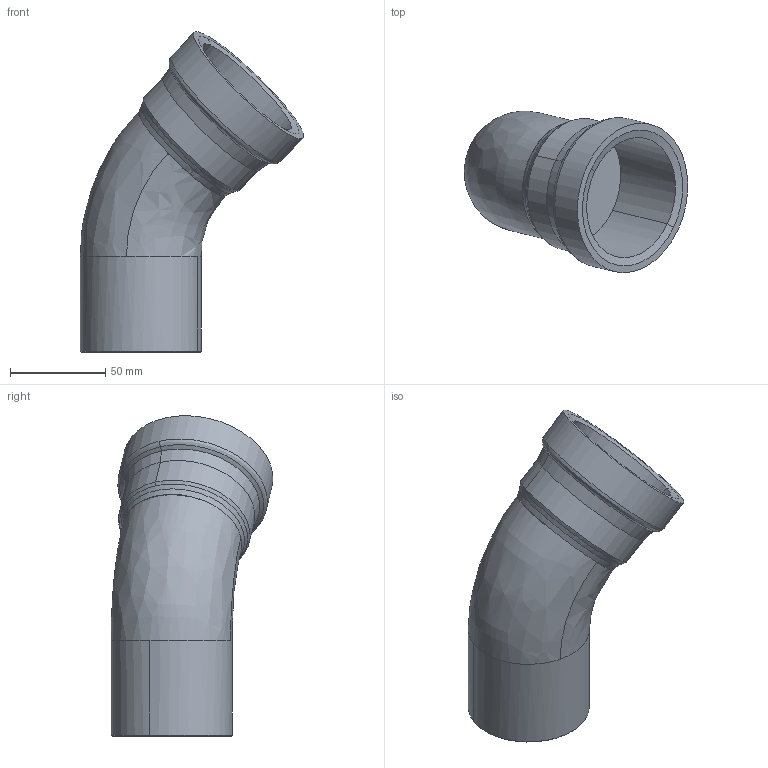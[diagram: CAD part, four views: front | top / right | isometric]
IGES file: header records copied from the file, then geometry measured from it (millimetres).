
Start section: 3D InterOp IGES (Version 25 0 1), Spatial Corp. Copyright (c) 1999-2007.
Global section: file name: pim0004557.igs; native system: Spatial Corp.; preprocessor: 3D InterOp ACIS/IGES; author: Cad-Pim; organization: TransMagic, Inc.; date: 20150430.173600; units: millimetre
Bounding box: 117.07 x 84.73 x 167.88 mm (x, y, z)
Volume: 425047.7 mm3; surface area: 50695.8 mm2
Topology: 1 solids, 1 shells, 29 faces, 83 edges, 57 vertices
Faces by surface type: bspline 11, cone 10, cylinder 8
